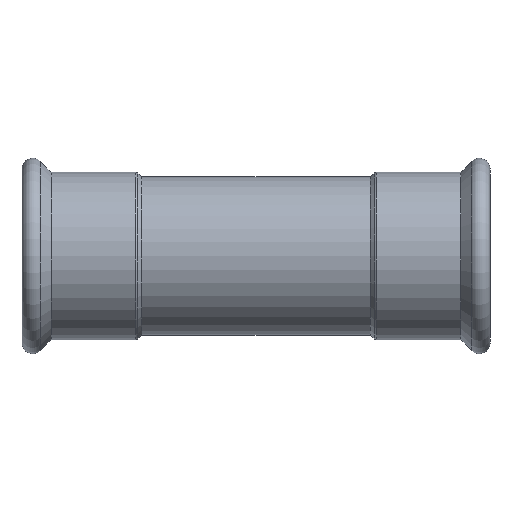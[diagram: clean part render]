
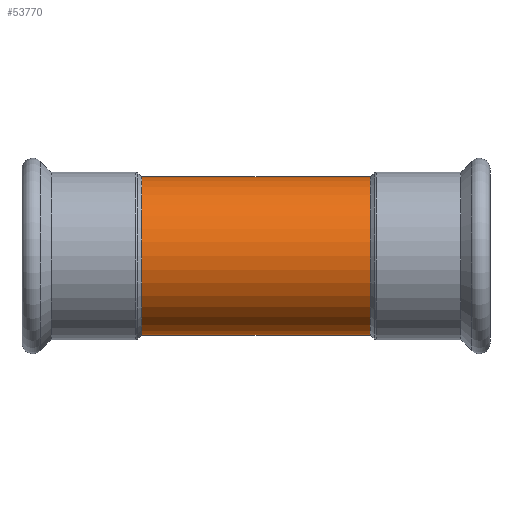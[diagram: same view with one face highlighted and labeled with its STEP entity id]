
A CAD part, top view. The second image highlights one B-rep face of the part: STEP entity #53770.
In plain terms, the highlighted cylindrical face has radius 44.45 mm (diameter 88.9 mm), a partial arc.
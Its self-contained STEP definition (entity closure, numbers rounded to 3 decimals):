
#1170=CARTESIAN_POINT('',(13.846,145.131,
0.));
#1180=DIRECTION('',(1.,0.,0.));
#1190=DIRECTION('',(0.,0.,1.));
#1200=AXIS2_PLACEMENT_3D('',#1170,#1180,#1190);
#1210=CYLINDRICAL_SURFACE('',#1200,44.45);
#23400=CARTESIAN_POINT('',(13.846,145.131,-44.45));
#23410=DIRECTION('',(1.,0.,0.));
#23420=VECTOR('',#23410,1.);
#23430=LINE('',#23400,#23420);
#23440=CARTESIAN_POINT('',(-114.154,145.131,-44.45));
#23450=VERTEX_POINT('',#23440);
#23460=CARTESIAN_POINT('',(13.846,145.131,-44.45));
#23470=VERTEX_POINT('',#23460);
#23480=EDGE_CURVE('',#23450,#23470,#23430,.T.);
#23500=CARTESIAN_POINT('',(13.846,145.131,
0.));
#23510=DIRECTION('',(1.,0.,0.));
#23520=DIRECTION('',(0.,0.,-1.));
#23530=AXIS2_PLACEMENT_3D('',#23500,#23510,#23520);
#23540=CIRCLE('',#23530,44.45);
#23550=CARTESIAN_POINT('',(13.846,145.131,44.45));
#23560=VERTEX_POINT('',#23550);
#23590=CARTESIAN_POINT('',(13.846,145.131,44.45));
#23600=DIRECTION('',(1.,0.,0.));
#23610=VECTOR('',#23600,1.);
#23620=LINE('',#23590,#23610);
#23630=CARTESIAN_POINT('',(-114.154,145.131,44.45));
#23640=VERTEX_POINT('',#23630);
#23650=EDGE_CURVE('',#23640,#23560,#23620,.T.);
#23670=CARTESIAN_POINT('',(-114.154,145.131,
0.));
#23680=DIRECTION('',(1.,0.,0.));
#23690=DIRECTION('',(0.,0.,1.));
#23700=AXIS2_PLACEMENT_3D('',#23670,#23680,#23690);
#23710=CIRCLE('',#23700,44.45);
#53690=EDGE_CURVE('',#23640,#23450,#23710,.T.);
#53700=ORIENTED_EDGE('',*,*,#53690,.T.);
#53710=ORIENTED_EDGE('',*,*,#23650,.F.);
#53720=EDGE_CURVE('',#23560,#23470,#23540,.T.);
#53730=ORIENTED_EDGE('',*,*,#53720,.F.);
#53740=ORIENTED_EDGE('',*,*,#23480,.T.);
#53750=EDGE_LOOP('',(#53740,#53730,#53710,#53700));
#53760=FACE_OUTER_BOUND('',#53750,.T.);
#53770=ADVANCED_FACE('',(#53760),#1210,.T.);
